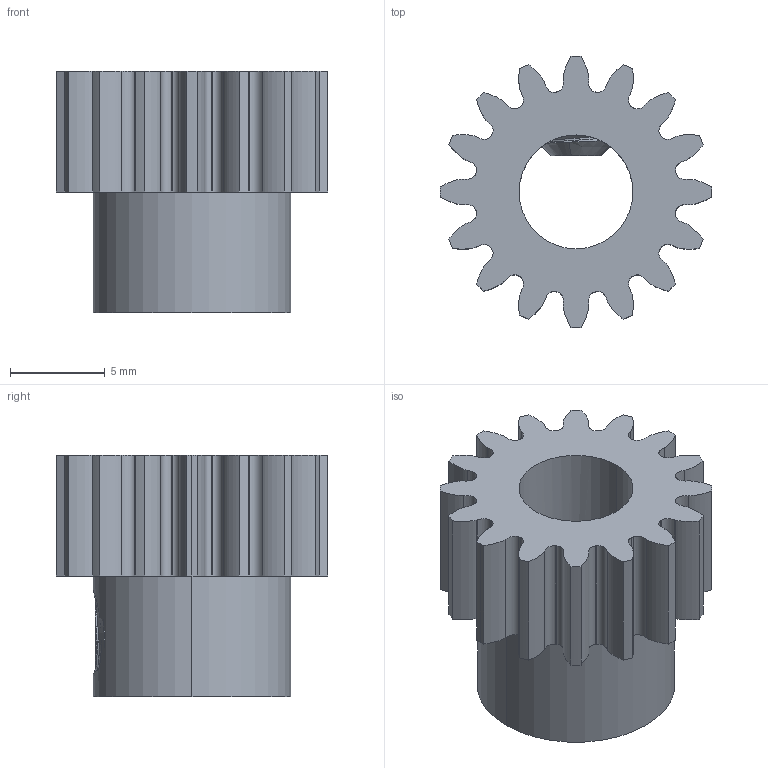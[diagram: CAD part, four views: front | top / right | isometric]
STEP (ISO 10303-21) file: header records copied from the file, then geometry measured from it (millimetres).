
FILE_DESCRIPTION (( 'STEP AP203' ), '1' );
FILE_NAME ('615258 assembly.STEP', '2016-10-04T20:24:48', ( '' ), ( '' ), 'SwSTEP 2.0', 'SolidWorks 2014', '' );
FILE_SCHEMA (( 'CONFIG_CONTROL_DESIGN' ));
Length unit declared in the file: inch
Products named in the file (3): 632134_91375A436; 615258 assembly; 615258_Gear Blank
Assembly tree (2 placements, depth 2):
  615258 assembly
    615258_Gear Blank
    632134_91375A436
Bounding box: 14.29 x 14.29 x 12.7 mm (x, y, z)
Volume: 965.3 mm3; surface area: 1249.9 mm2
Topology: 2 solids, 2 shells, 206 faces, 582 edges, 379 vertices
Faces by surface type: bspline 74, cylinder 68, plane 48, cone 16
Entity records: 15698 total; most frequent: CARTESIAN_POINT 10751, ORIENTED_EDGE 1156, DIRECTION 707, EDGE_CURVE 578, VERTEX_POINT 379, VECTOR 245, LINE 245, AXIS2_PLACEMENT_3D 231
